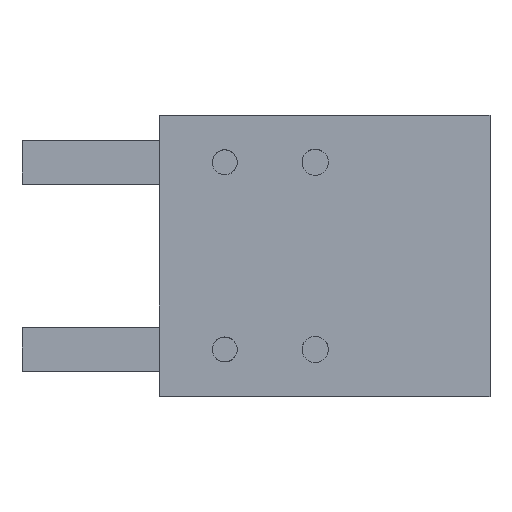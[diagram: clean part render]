
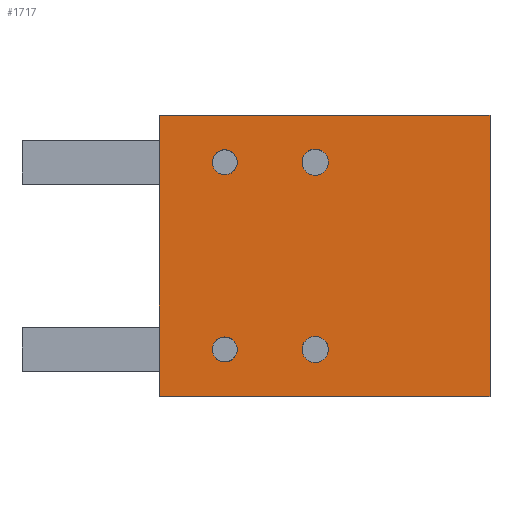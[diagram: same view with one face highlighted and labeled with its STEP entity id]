
A CAD part, top view. The second image highlights one B-rep face of the part: STEP entity #1717.
In plain terms, the highlighted planar face has unit normal (0, 0, 1).
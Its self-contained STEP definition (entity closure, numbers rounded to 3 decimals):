
#15 = VECTOR ( 'NONE', #464, 1000. ) ;
#38 = CARTESIAN_POINT ( 'NONE',  ( -18., -15., 13. ) ) ;
#56 = EDGE_CURVE ( 'NONE', #998, #3052, #1862, .T. ) ;
#88 = VERTEX_POINT ( 'NONE', #2732 ) ;
#90 = LINE ( 'NONE', #632, #15 ) ;
#162 = CARTESIAN_POINT ( 'NONE',  ( -3.6, -15., 13. ) ) ;
#249 = ORIENTED_EDGE ( 'NONE', *, *, #1722, .F. ) ;
#294 = DIRECTION ( 'NONE',  ( 0., 0., 1. ) ) ;
#312 = DIRECTION ( 'NONE',  ( 1., 0., 0. ) ) ;
#335 = EDGE_LOOP ( 'NONE', ( #2745, #1777 ) ) ;
#342 = DIRECTION ( 'NONE',  ( 0., 0., 1. ) ) ;
#352 = CARTESIAN_POINT ( 'NONE',  ( -16., 15., 13. ) ) ;
#464 = DIRECTION ( 'NONE',  ( -1., 0., 0. ) ) ;
#466 = EDGE_CURVE ( 'NONE', #1044, #1463, #2978, .T. ) ;
#504 = ORIENTED_EDGE ( 'NONE', *, *, #3244, .F. ) ;
#613 = CARTESIAN_POINT ( 'NONE',  ( -3.6, 15., 13. ) ) ;
#625 = ORIENTED_EDGE ( 'NONE', *, *, #1404, .F. ) ;
#632 = CARTESIAN_POINT ( 'NONE',  ( 26.5, -22.5, 13. ) ) ;
#689 = DIRECTION ( 'NONE',  ( 0., 1., 0. ) ) ;
#691 = CARTESIAN_POINT ( 'NONE',  ( -1.5, 15., 13. ) ) ;
#707 = CARTESIAN_POINT ( 'NONE',  ( 26.5, 22.5, 13. ) ) ;
#734 = DIRECTION ( 'NONE',  ( 1., 0., 0. ) ) ;
#754 = AXIS2_PLACEMENT_3D ( 'NONE', #1927, #1920, #1896 ) ;
#825 = AXIS2_PLACEMENT_3D ( 'NONE', #3157, #2246, #3040 ) ;
#933 = EDGE_LOOP ( 'NONE', ( #249, #625 ) ) ;
#978 = AXIS2_PLACEMENT_3D ( 'NONE', #2250, #2109, #2096 ) ;
#998 = VERTEX_POINT ( 'NONE', #3155 ) ;
#1019 = VERTEX_POINT ( 'NONE', #3135 ) ;
#1044 = VERTEX_POINT ( 'NONE', #2938 ) ;
#1077 = DIRECTION ( 'NONE',  ( 0., 0., 1. ) ) ;
#1080 = CIRCLE ( 'NONE', #3731, 2. ) ;
#1085 = CIRCLE ( 'NONE', #754, 2. ) ;
#1118 = DIRECTION ( 'NONE',  ( 1., 0., 0. ) ) ;
#1142 = CARTESIAN_POINT ( 'NONE',  ( -18., 15., 13. ) ) ;
#1199 = AXIS2_PLACEMENT_3D ( 'NONE', #2577, #294, #734 ) ;
#1234 = FACE_OUTER_BOUND ( 'NONE', #2949, .T. ) ;
#1281 = FACE_BOUND ( 'NONE', #335, .T. ) ;
#1304 = CIRCLE ( 'NONE', #1450, 2.1 ) ;
#1311 = AXIS2_PLACEMENT_3D ( 'NONE', #691, #1077, #1118 ) ;
#1319 = CIRCLE ( 'NONE', #1199, 2.1 ) ;
#1320 = EDGE_LOOP ( 'NONE', ( #2851, #1331 ) ) ;
#1329 = FACE_BOUND ( 'NONE', #933, .T. ) ;
#1331 = ORIENTED_EDGE ( 'NONE', *, *, #2350, .F. ) ;
#1372 = FACE_BOUND ( 'NONE', #1320, .T. ) ;
#1395 = EDGE_CURVE ( 'NONE', #1044, #1551, #90, .T. ) ;
#1404 = EDGE_CURVE ( 'NONE', #3544, #3493, #1080, .T. ) ;
#1414 = ORIENTED_EDGE ( 'NONE', *, *, #1468, .F. ) ;
#1450 = AXIS2_PLACEMENT_3D ( 'NONE', #2434, #2402, #2395 ) ;
#1462 = DIRECTION ( 'NONE',  ( -1., 0., 0. ) ) ;
#1463 = VERTEX_POINT ( 'NONE', #3638 ) ;
#1468 = EDGE_CURVE ( 'NONE', #2981, #1019, #3838, .T. ) ;
#1483 = CIRCLE ( 'NONE', #2759, 2. ) ;
#1487 = VECTOR ( 'NONE', #1462, 1000. ) ;
#1551 = VERTEX_POINT ( 'NONE', #3782 ) ;
#1569 = FACE_BOUND ( 'NONE', #2414, .T. ) ;
#1624 = EDGE_CURVE ( 'NONE', #1551, #3171, #2371, .T. ) ;
#1677 = CARTESIAN_POINT ( 'NONE',  ( -26.5, 22.5, 13. ) ) ;
#1690 = CARTESIAN_POINT ( 'NONE',  ( 26.5, 22.5, 13. ) ) ;
#1717 = ADVANCED_FACE ( 'NONE', ( #1329, #1372, #1569, #1281, #1234 ), #2195, .T. ) ;
#1722 = EDGE_CURVE ( 'NONE', #3493, #3544, #1085, .T. ) ;
#1777 = ORIENTED_EDGE ( 'NONE', *, *, #2683, .F. ) ;
#1784 = CARTESIAN_POINT ( 'NONE',  ( -14., 15., 13. ) ) ;
#1862 = CIRCLE ( 'NONE', #3083, 2. ) ;
#1896 = DIRECTION ( 'NONE',  ( 1., 0., 0. ) ) ;
#1920 = DIRECTION ( 'NONE',  ( 0., 0., 1. ) ) ;
#1927 = CARTESIAN_POINT ( 'NONE',  ( -16., 15., 13. ) ) ;
#1996 = EDGE_CURVE ( 'NONE', #88, #3236, #1319, .T. ) ;
#2058 = VECTOR ( 'NONE', #689, 1000. ) ;
#2096 = DIRECTION ( 'NONE',  ( 0., -1., 0. ) ) ;
#2109 = DIRECTION ( 'NONE',  ( 0., 0., 1. ) ) ;
#2153 = ORIENTED_EDGE ( 'NONE', *, *, #1624, .F. ) ;
#2195 = PLANE ( 'NONE',  #978 ) ;
#2246 = DIRECTION ( 'NONE',  ( 0., 0., 1. ) ) ;
#2250 = CARTESIAN_POINT ( 'NONE',  ( 26.5, 22.5, 13. ) ) ;
#2287 = LINE ( 'NONE', #1690, #1487 ) ;
#2316 = VECTOR ( 'NONE', #3358, 1000. ) ;
#2350 = EDGE_CURVE ( 'NONE', #3052, #998, #1483, .T. ) ;
#2371 = LINE ( 'NONE', #3417, #2316 ) ;
#2395 = DIRECTION ( 'NONE',  ( 1., 0., 0. ) ) ;
#2402 = DIRECTION ( 'NONE',  ( 0., 0., 1. ) ) ;
#2414 = EDGE_LOOP ( 'NONE', ( #504, #1414 ) ) ;
#2434 = CARTESIAN_POINT ( 'NONE',  ( -1.5, -15., 13. ) ) ;
#2575 = CARTESIAN_POINT ( 'NONE',  ( -16., -15., 13. ) ) ;
#2577 = CARTESIAN_POINT ( 'NONE',  ( -1.5, -15., 13. ) ) ;
#2602 = DIRECTION ( 'NONE',  ( 1., 0., 0. ) ) ;
#2683 = EDGE_CURVE ( 'NONE', #3236, #88, #1304, .T. ) ;
#2732 = CARTESIAN_POINT ( 'NONE',  ( 0.6, -15., 13. ) ) ;
#2745 = ORIENTED_EDGE ( 'NONE', *, *, #1996, .F. ) ;
#2759 = AXIS2_PLACEMENT_3D ( 'NONE', #3069, #3048, #3023 ) ;
#2818 = CIRCLE ( 'NONE', #1311, 2.1 ) ;
#2851 = ORIENTED_EDGE ( 'NONE', *, *, #56, .F. ) ;
#2938 = CARTESIAN_POINT ( 'NONE',  ( 26.5, -22.5, 13. ) ) ;
#2949 = EDGE_LOOP ( 'NONE', ( #2153, #3556, #2952, #3307 ) ) ;
#2952 = ORIENTED_EDGE ( 'NONE', *, *, #466, .T. ) ;
#2978 = LINE ( 'NONE', #707, #2058 ) ;
#2981 = VERTEX_POINT ( 'NONE', #613 ) ;
#3023 = DIRECTION ( 'NONE',  ( 1., 0., 0. ) ) ;
#3040 = DIRECTION ( 'NONE',  ( 1., 0., 0. ) ) ;
#3048 = DIRECTION ( 'NONE',  ( 0., 0., 1. ) ) ;
#3052 = VERTEX_POINT ( 'NONE', #38 ) ;
#3069 = CARTESIAN_POINT ( 'NONE',  ( -16., -15., 13. ) ) ;
#3083 = AXIS2_PLACEMENT_3D ( 'NONE', #2575, #3892, #2602 ) ;
#3135 = CARTESIAN_POINT ( 'NONE',  ( 0.6, 15., 13. ) ) ;
#3155 = CARTESIAN_POINT ( 'NONE',  ( -14., -15., 13. ) ) ;
#3157 = CARTESIAN_POINT ( 'NONE',  ( -1.5, 15., 13. ) ) ;
#3171 = VERTEX_POINT ( 'NONE', #1677 ) ;
#3175 = EDGE_CURVE ( 'NONE', #1463, #3171, #2287, .T. ) ;
#3236 = VERTEX_POINT ( 'NONE', #162 ) ;
#3244 = EDGE_CURVE ( 'NONE', #1019, #2981, #2818, .T. ) ;
#3307 = ORIENTED_EDGE ( 'NONE', *, *, #3175, .T. ) ;
#3358 = DIRECTION ( 'NONE',  ( 0., 1., 0. ) ) ;
#3417 = CARTESIAN_POINT ( 'NONE',  ( -26.5, 22.5, 13. ) ) ;
#3493 = VERTEX_POINT ( 'NONE', #1784 ) ;
#3544 = VERTEX_POINT ( 'NONE', #1142 ) ;
#3556 = ORIENTED_EDGE ( 'NONE', *, *, #1395, .F. ) ;
#3638 = CARTESIAN_POINT ( 'NONE',  ( 26.5, 22.5, 13. ) ) ;
#3731 = AXIS2_PLACEMENT_3D ( 'NONE', #352, #342, #312 ) ;
#3782 = CARTESIAN_POINT ( 'NONE',  ( -26.5, -22.5, 13. ) ) ;
#3838 = CIRCLE ( 'NONE', #825, 2.1 ) ;
#3892 = DIRECTION ( 'NONE',  ( 0., 0., 1. ) ) ;
